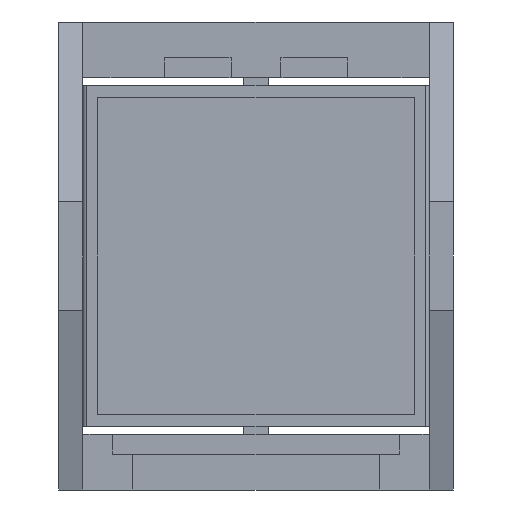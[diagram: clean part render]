
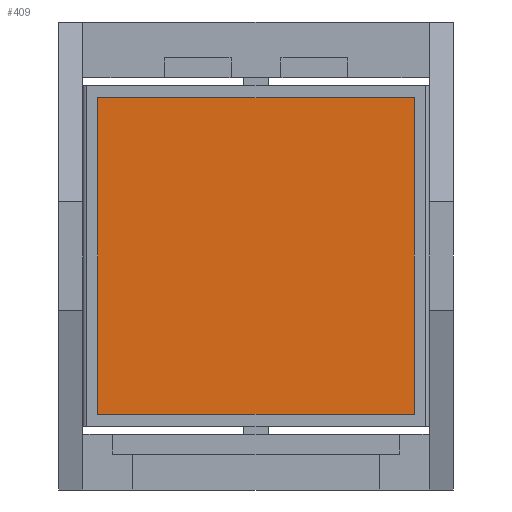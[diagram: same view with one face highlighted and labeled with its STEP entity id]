
A CAD part, front view. The second image highlights one B-rep face of the part: STEP entity #409.
In plain terms, the highlighted planar face has unit normal (0, -1, 0).
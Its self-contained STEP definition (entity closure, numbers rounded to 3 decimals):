
#59 = CARTESIAN_POINT ( 'NONE',  ( 12.524, -1.976, -9.821 ) ) ;
#331 = ORIENTED_EDGE ( 'NONE', *, *, #2139, .F. ) ;
#338 = VECTOR ( 'NONE', #4292, 1000. ) ;
#409 = ADVANCED_FACE ( 'NONE', ( #4076 ), #3646, .F. ) ;
#553 = VECTOR ( 'NONE', #3052, 1000. ) ;
#554 = CARTESIAN_POINT ( 'NONE',  ( -6.476, -1.976, -9.821 ) ) ;
#676 = DIRECTION ( 'NONE',  ( 0., 1., 0. ) ) ;
#900 = VERTEX_POINT ( 'NONE', #3594 ) ;
#913 = DIRECTION ( 'NONE',  ( 0., 0., 1. ) ) ;
#966 = VERTEX_POINT ( 'NONE', #1950 ) ;
#1459 = EDGE_LOOP ( 'NONE', ( #5356, #5433, #331, #3086 ) ) ;
#1790 = EDGE_CURVE ( 'NONE', #900, #966, #2602, .T. ) ;
#1950 = CARTESIAN_POINT ( 'NONE',  ( -6.476, -1.976, -9.821 ) ) ;
#1954 = VECTOR ( 'NONE', #4654, 1000. ) ;
#2139 = EDGE_CURVE ( 'NONE', #2794, #900, #4820, .T. ) ;
#2167 = CARTESIAN_POINT ( 'NONE',  ( -6.476, -1.976, 9.179 ) ) ;
#2602 = LINE ( 'NONE', #554, #553 ) ;
#2708 = EDGE_CURVE ( 'NONE', #966, #5060, #2941, .T. ) ;
#2756 = CARTESIAN_POINT ( 'NONE',  ( -6.476, -1.976, 9.179 ) ) ;
#2794 = VERTEX_POINT ( 'NONE', #4683 ) ;
#2892 = EDGE_CURVE ( 'NONE', #5060, #2794, #5199, .T. ) ;
#2941 = LINE ( 'NONE', #3743, #1954 ) ;
#3052 = DIRECTION ( 'NONE',  ( -1., 0., 0. ) ) ;
#3086 = ORIENTED_EDGE ( 'NONE', *, *, #2892, .F. ) ;
#3140 = DIRECTION ( 'NONE',  ( 0., 0., -1. ) ) ;
#3594 = CARTESIAN_POINT ( 'NONE',  ( 12.524, -1.976, -9.821 ) ) ;
#3646 = PLANE ( 'NONE',  #4201 ) ;
#3743 = CARTESIAN_POINT ( 'NONE',  ( -6.476, -1.976, -9.821 ) ) ;
#4076 = FACE_OUTER_BOUND ( 'NONE', #1459, .T. ) ;
#4201 = AXIS2_PLACEMENT_3D ( 'NONE', #4544, #676, #913 ) ;
#4269 = VECTOR ( 'NONE', #3140, 1000. ) ;
#4292 = DIRECTION ( 'NONE',  ( 1., 0., 0. ) ) ;
#4544 = CARTESIAN_POINT ( 'NONE',  ( -6.476, -1.976, 9.179 ) ) ;
#4654 = DIRECTION ( 'NONE',  ( 0., 0., 1. ) ) ;
#4683 = CARTESIAN_POINT ( 'NONE',  ( 12.524, -1.976, 9.179 ) ) ;
#4820 = LINE ( 'NONE', #59, #4269 ) ;
#5060 = VERTEX_POINT ( 'NONE', #2756 ) ;
#5199 = LINE ( 'NONE', #2167, #338 ) ;
#5356 = ORIENTED_EDGE ( 'NONE', *, *, #2708, .F. ) ;
#5433 = ORIENTED_EDGE ( 'NONE', *, *, #1790, .F. ) ;
